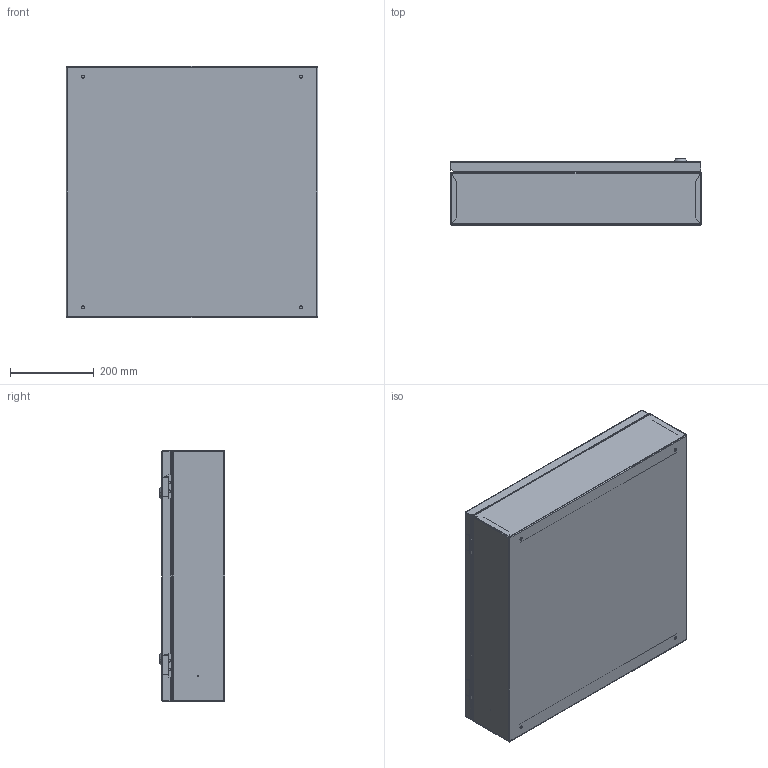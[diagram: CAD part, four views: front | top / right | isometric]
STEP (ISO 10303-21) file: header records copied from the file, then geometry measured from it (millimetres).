
FILE_DESCRIPTION (( 'STEP AP214' ), '1' );
FILE_NAME ('ÙÌÏ-661-600õ600õ150-IP54-ÓÕË2-ÊÝÀÇ.STEP', '2023-01-24T12:10:56', ( '' ), ( '' ), 'SwSTEP 2.0', 'SolidWorks 2018', '' );
FILE_SCHEMA (( 'AUTOMOTIVE_DESIGN' ));
Length unit declared in the file: millimetre
Products named in the file (1): ÙÌÏ-661-600õ600õ150-IP54-ÓÕË2-ÊÝÀÇ
Bounding box: 600 x 156.7 x 600 mm (x, y, z)
Surface area: 2144133.2 mm2 (no closed solid volume)
Topology: 0 solids, 35 shells, 201 faces, 698 edges, 525 vertices
Faces by surface type: plane 105, cylinder 64, bspline 18, torus 10, cone 4
Entity records: 10939 total; most frequent: CARTESIAN_POINT 2843, DIRECTION 1213, ORIENTED_EDGE 998, EDGE_CURVE 698, VERTEX_POINT 525, VECTOR 407, LINE 407, AXIS2_PLACEMENT_3D 403
